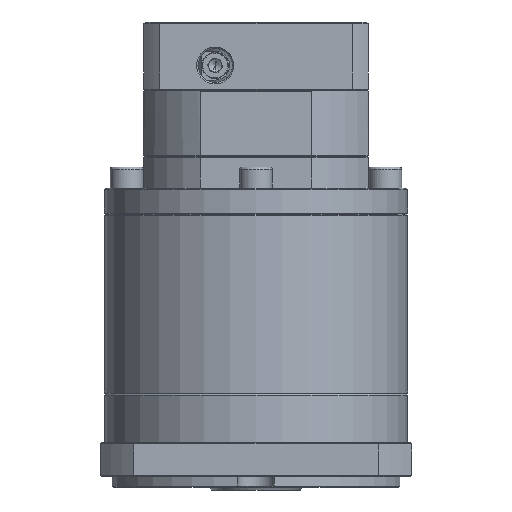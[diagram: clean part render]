
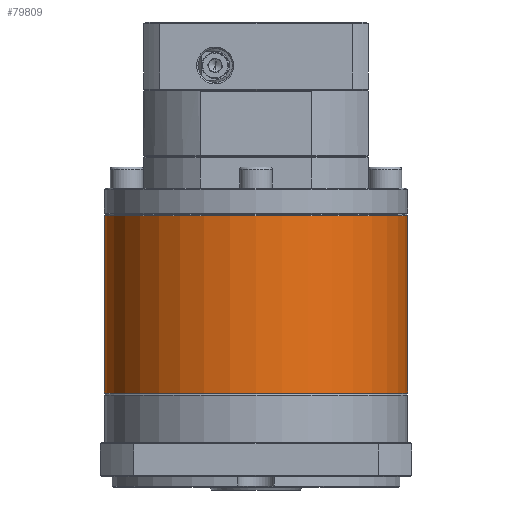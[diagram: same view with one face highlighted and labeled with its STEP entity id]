
A CAD part, front view. The second image highlights one B-rep face of the part: STEP entity #79809.
In plain terms, the highlighted cylindrical face has radius 57.5 mm (diameter 115 mm), a partial arc.
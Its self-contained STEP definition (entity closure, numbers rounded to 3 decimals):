
#204 = DIRECTION ( 'NONE',  ( 0., 0., -1. ) ) ;
#634 = AXIS2_PLACEMENT_3D ( 'NONE', #71538, #100645, #42950 ) ;
#13796 = DIRECTION ( 'NONE',  ( 0., 0., -1. ) ) ;
#16588 = ORIENTED_EDGE ( 'NONE', *, *, #44764, .T. ) ;
#17807 = DIRECTION ( 'NONE',  ( 0., 0., -1. ) ) ;
#20484 = ORIENTED_EDGE ( 'NONE', *, *, #102633, .T. ) ;
#22043 = VECTOR ( 'NONE', #13796, 1000. ) ;
#27093 = VERTEX_POINT ( 'NONE', #52511 ) ;
#31407 = CARTESIAN_POINT ( 'NONE',  ( -28.234, 111.211, -56.27 ) ) ;
#31883 = CYLINDRICAL_SURFACE ( 'NONE', #90607, 57.5 ) ;
#35150 = CIRCLE ( 'NONE', #634, 57.5 ) ;
#36445 = CIRCLE ( 'NONE', #63250, 57.5 ) ;
#38277 = ORIENTED_EDGE ( 'NONE', *, *, #71120, .T. ) ;
#38744 = LINE ( 'NONE', #83617, #121733 ) ;
#39186 = ORIENTED_EDGE ( 'NONE', *, *, #81967, .F. ) ;
#39195 = CIRCLE ( 'NONE', #61812, 57.5 ) ;
#42950 = DIRECTION ( 'NONE',  ( -1., 0., 0. ) ) ;
#44764 = EDGE_CURVE ( 'NONE', #108264, #68842, #39195, .T. ) ;
#44823 = DIRECTION ( 'NONE',  ( 0., 0., -1. ) ) ;
#52379 = EDGE_LOOP ( 'NONE', ( #39186, #16588, #38277, #104204, #20484 ) ) ;
#52511 = CARTESIAN_POINT ( 'NONE',  ( -28.234, 111.211, -123.482 ) ) ;
#53621 = CARTESIAN_POINT ( 'NONE',  ( 29.266, 111.211, -55.77 ) ) ;
#61812 = AXIS2_PLACEMENT_3D ( 'NONE', #120316, #44823, #91964 ) ;
#63250 = AXIS2_PLACEMENT_3D ( 'NONE', #106126, #204, #67707 ) ;
#63478 = FACE_OUTER_BOUND ( 'NONE', #52379, .T. ) ;
#63497 = VERTEX_POINT ( 'NONE', #103368 ) ;
#65804 = DIRECTION ( 'NONE',  ( -1., 0., 0. ) ) ;
#67070 = DIRECTION ( 'NONE',  ( 0., 0., -1. ) ) ;
#67707 = DIRECTION ( 'NONE',  ( -1., 0., 0. ) ) ;
#68842 = VERTEX_POINT ( 'NONE', #77310 ) ;
#70234 = CARTESIAN_POINT ( 'NONE',  ( 86.766, 111.211, -56.27 ) ) ;
#71120 = EDGE_CURVE ( 'NONE', #68842, #104010, #36445, .T. ) ;
#71537 = CARTESIAN_POINT ( 'NONE',  ( -28.234, 111.211, -55.77 ) ) ;
#71538 = CARTESIAN_POINT ( 'NONE',  ( 29.266, 111.211, -123.482 ) ) ;
#77310 = CARTESIAN_POINT ( 'NONE',  ( 29.266, 53.711, -56.27 ) ) ;
#79809 = ADVANCED_FACE ( 'NONE', ( #63478 ), #31883, .T. ) ;
#81967 = EDGE_CURVE ( 'NONE', #108264, #63497, #38744, .T. ) ;
#83617 = CARTESIAN_POINT ( 'NONE',  ( 86.766, 111.211, -55.77 ) ) ;
#89599 = EDGE_CURVE ( 'NONE', #104010, #27093, #98944, .T. ) ;
#90607 = AXIS2_PLACEMENT_3D ( 'NONE', #53621, #67070, #65804 ) ;
#91964 = DIRECTION ( 'NONE',  ( -1., 0., 0. ) ) ;
#98944 = LINE ( 'NONE', #71537, #22043 ) ;
#100645 = DIRECTION ( 'NONE',  ( 0., 0., 1. ) ) ;
#102633 = EDGE_CURVE ( 'NONE', #27093, #63497, #35150, .T. ) ;
#103368 = CARTESIAN_POINT ( 'NONE',  ( 86.766, 111.211, -123.482 ) ) ;
#104010 = VERTEX_POINT ( 'NONE', #31407 ) ;
#104204 = ORIENTED_EDGE ( 'NONE', *, *, #89599, .T. ) ;
#106126 = CARTESIAN_POINT ( 'NONE',  ( 29.266, 111.211, -56.27 ) ) ;
#108264 = VERTEX_POINT ( 'NONE', #70234 ) ;
#120316 = CARTESIAN_POINT ( 'NONE',  ( 29.266, 111.211, -56.27 ) ) ;
#121733 = VECTOR ( 'NONE', #17807, 1000. ) ;
